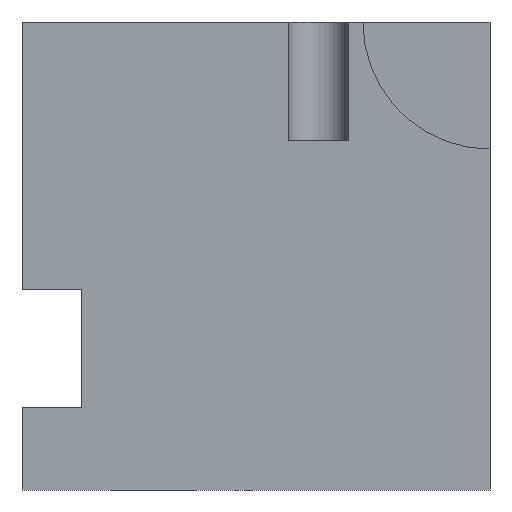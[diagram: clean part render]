
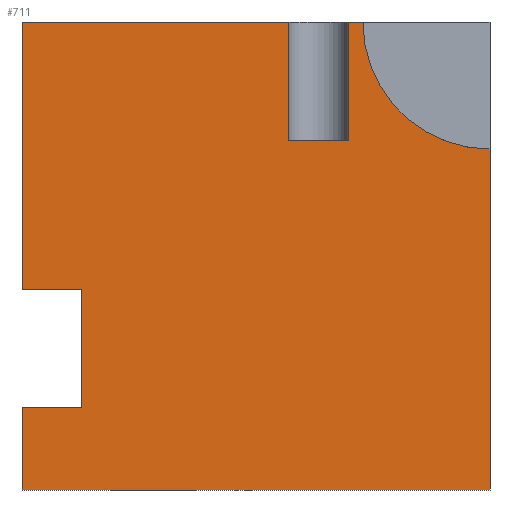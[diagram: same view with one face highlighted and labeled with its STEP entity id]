
A CAD part, front view. The second image highlights one B-rep face of the part: STEP entity #711.
In plain terms, the highlighted planar face has unit normal (0, -1, 0).
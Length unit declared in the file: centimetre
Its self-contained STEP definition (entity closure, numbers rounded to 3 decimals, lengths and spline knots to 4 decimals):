
#2 = VECTOR ( 'NONE', #988, 100. ) ;
#8 = EDGE_CURVE ( 'NONE', #552, #741, #958, .T. ) ;
#28 = LINE ( 'NONE', #287, #218 ) ;
#57 = VECTOR ( 'NONE', #776, 100. ) ;
#59 = AXIS2_PLACEMENT_3D ( 'NONE', #235, #329, #682 ) ;
#63 = CARTESIAN_POINT ( 'NONE',  ( 697.6109, 0., 746.27 ) ) ;
#89 = CARTESIAN_POINT ( 'NONE',  ( 568.8316, 0., 1000. ) ) ;
#118 = EDGE_CURVE ( 'NONE', #132, #1021, #771, .T. ) ;
#131 = CARTESIAN_POINT ( 'NONE',  ( 568.8316, 0., 746.27 ) ) ;
#132 = VERTEX_POINT ( 'NONE', #524 ) ;
#138 = DIRECTION ( 'NONE',  ( 0., 1., 0. ) ) ;
#144 = DIRECTION ( 'NONE',  ( 0., 0., 1. ) ) ;
#150 = CARTESIAN_POINT ( 'NONE',  ( 1000., 0., 0. ) ) ;
#160 = ORIENTED_EDGE ( 'NONE', *, *, #727, .F. ) ;
#163 = ORIENTED_EDGE ( 'NONE', *, *, #737, .T. ) ;
#173 = CARTESIAN_POINT ( 'NONE',  ( 0., 0., 1000. ) ) ;
#197 = VECTOR ( 'NONE', #952, 100. ) ;
#199 = VERTEX_POINT ( 'NONE', #131 ) ;
#203 = CIRCLE ( 'NONE', #59, 271.5535 ) ;
#210 = CARTESIAN_POINT ( 'NONE',  ( 0., 0., 176.4727 ) ) ;
#218 = VECTOR ( 'NONE', #481, 100. ) ;
#224 = PLANE ( 'NONE',  #1070 ) ;
#231 = ORIENTED_EDGE ( 'NONE', *, *, #889, .T. ) ;
#235 = CARTESIAN_POINT ( 'NONE',  ( 1000., 0., 1000. ) ) ;
#259 = CARTESIAN_POINT ( 'NONE',  ( 0., 0., 1000. ) ) ;
#285 = VECTOR ( 'NONE', #553, 100. ) ;
#287 = CARTESIAN_POINT ( 'NONE',  ( 568.8316, 0., 746.27 ) ) ;
#293 = ORIENTED_EDGE ( 'NONE', *, *, #444, .T. ) ;
#295 = CARTESIAN_POINT ( 'NONE',  ( 128.1789, 0., 176.4727 ) ) ;
#299 = CARTESIAN_POINT ( 'NONE',  ( 0., 0., 428.448 ) ) ;
#329 = DIRECTION ( 'NONE',  ( 0., -1., 0. ) ) ;
#353 = VERTEX_POINT ( 'NONE', #1107 ) ;
#355 = EDGE_CURVE ( 'NONE', #931, #715, #511, .T. ) ;
#361 = CARTESIAN_POINT ( 'NONE',  ( 0., 0., 428.448 ) ) ;
#372 = EDGE_CURVE ( 'NONE', #758, #199, #668, .T. ) ;
#379 = CARTESIAN_POINT ( 'NONE',  ( 0., 0., 0. ) ) ;
#397 = VECTOR ( 'NONE', #934, 100. ) ;
#413 = VERTEX_POINT ( 'NONE', #89 ) ;
#444 = EDGE_CURVE ( 'NONE', #353, #703, #968, .T. ) ;
#466 = ORIENTED_EDGE ( 'NONE', *, *, #118, .F. ) ;
#481 = DIRECTION ( 'NONE',  ( 0., 0., 1. ) ) ;
#488 = VECTOR ( 'NONE', #1111, 100. ) ;
#493 = VECTOR ( 'NONE', #1106, 100. ) ;
#494 = CARTESIAN_POINT ( 'NONE',  ( 0., 0., 0. ) ) ;
#501 = CARTESIAN_POINT ( 'NONE',  ( 128.1789, 0., 176.4727 ) ) ;
#509 = LINE ( 'NONE', #1009, #397 ) ;
#511 = LINE ( 'NONE', #749, #488 ) ;
#524 = CARTESIAN_POINT ( 'NONE',  ( 697.6109, 0., 1000. ) ) ;
#538 = CARTESIAN_POINT ( 'NONE',  ( 0., 0., 176.4727 ) ) ;
#552 = VERTEX_POINT ( 'NONE', #538 ) ;
#553 = DIRECTION ( 'NONE',  ( -1., 0., 0. ) ) ;
#566 = ORIENTED_EDGE ( 'NONE', *, *, #372, .T. ) ;
#580 = LINE ( 'NONE', #941, #975 ) ;
#636 = ORIENTED_EDGE ( 'NONE', *, *, #1108, .T. ) ;
#668 = LINE ( 'NONE', #763, #881 ) ;
#678 = VERTEX_POINT ( 'NONE', #295 ) ;
#682 = DIRECTION ( 'NONE',  ( 0., 0., -1. ) ) ;
#685 = CARTESIAN_POINT ( 'NONE',  ( 0., 0., 1000. ) ) ;
#688 = ORIENTED_EDGE ( 'NONE', *, *, #811, .F. ) ;
#689 = CARTESIAN_POINT ( 'NONE',  ( 128.1789, 0., 428.448 ) ) ;
#703 = VERTEX_POINT ( 'NONE', #299 ) ;
#711 = ADVANCED_FACE ( 'NONE', ( #998 ), #224, .F. ) ;
#715 = VERTEX_POINT ( 'NONE', #150 ) ;
#716 = LINE ( 'NONE', #379, #2 ) ;
#727 = EDGE_CURVE ( 'NONE', #1021, #931, #203, .T. ) ;
#732 = EDGE_CURVE ( 'NONE', #758, #132, #580, .T. ) ;
#737 = EDGE_CURVE ( 'NONE', #823, #678, #774, .T. ) ;
#741 = VERTEX_POINT ( 'NONE', #494 ) ;
#749 = CARTESIAN_POINT ( 'NONE',  ( 1000., 0., 1000. ) ) ;
#758 = VERTEX_POINT ( 'NONE', #63 ) ;
#763 = CARTESIAN_POINT ( 'NONE',  ( 0., 0., 746.27 ) ) ;
#771 = LINE ( 'NONE', #173, #853 ) ;
#774 = LINE ( 'NONE', #501, #493 ) ;
#776 = DIRECTION ( 'NONE',  ( 0., 0., -1. ) ) ;
#782 = CARTESIAN_POINT ( 'NONE',  ( 1000., 0., 728.4465 ) ) ;
#786 = DIRECTION ( 'NONE',  ( 1., 0., 0. ) ) ;
#797 = VECTOR ( 'NONE', #954, 100. ) ;
#802 = EDGE_LOOP ( 'NONE', ( #908, #160, #466, #856, #566, #902, #688, #293, #231, #163, #636, #930, #894 ) ) ;
#811 = EDGE_CURVE ( 'NONE', #353, #413, #509, .T. ) ;
#823 = VERTEX_POINT ( 'NONE', #689 ) ;
#844 = DIRECTION ( 'NONE',  ( -1., 0., 0. ) ) ;
#848 = DIRECTION ( 'NONE',  ( 0., 0., 1. ) ) ;
#853 = VECTOR ( 'NONE', #786, 100. ) ;
#856 = ORIENTED_EDGE ( 'NONE', *, *, #732, .F. ) ;
#881 = VECTOR ( 'NONE', #844, 100. ) ;
#889 = EDGE_CURVE ( 'NONE', #703, #823, #1052, .T. ) ;
#894 = ORIENTED_EDGE ( 'NONE', *, *, #1043, .T. ) ;
#902 = ORIENTED_EDGE ( 'NONE', *, *, #1091, .T. ) ;
#908 = ORIENTED_EDGE ( 'NONE', *, *, #355, .F. ) ;
#930 = ORIENTED_EDGE ( 'NONE', *, *, #8, .T. ) ;
#931 = VERTEX_POINT ( 'NONE', #782 ) ;
#934 = DIRECTION ( 'NONE',  ( 1., 0., 0. ) ) ;
#941 = CARTESIAN_POINT ( 'NONE',  ( 697.6109, 0., 746.27 ) ) ;
#952 = DIRECTION ( 'NONE',  ( 0., 0., -1. ) ) ;
#954 = DIRECTION ( 'NONE',  ( 1., 0., 0. ) ) ;
#958 = LINE ( 'NONE', #685, #57 ) ;
#968 = LINE ( 'NONE', #259, #197 ) ;
#972 = CARTESIAN_POINT ( 'NONE',  ( 728.4465, 0., 1000. ) ) ;
#975 = VECTOR ( 'NONE', #848, 100. ) ;
#983 = LINE ( 'NONE', #210, #285 ) ;
#988 = DIRECTION ( 'NONE',  ( 1., 0., 0. ) ) ;
#998 = FACE_OUTER_BOUND ( 'NONE', #802, .T. ) ;
#1009 = CARTESIAN_POINT ( 'NONE',  ( 0., 0., 1000. ) ) ;
#1021 = VERTEX_POINT ( 'NONE', #972 ) ;
#1023 = CARTESIAN_POINT ( 'NONE',  ( 0., 0., 1000. ) ) ;
#1043 = EDGE_CURVE ( 'NONE', #741, #715, #716, .T. ) ;
#1052 = LINE ( 'NONE', #361, #797 ) ;
#1070 = AXIS2_PLACEMENT_3D ( 'NONE', #1023, #138, #144 ) ;
#1091 = EDGE_CURVE ( 'NONE', #199, #413, #28, .T. ) ;
#1106 = DIRECTION ( 'NONE',  ( 0., 0., -1. ) ) ;
#1107 = CARTESIAN_POINT ( 'NONE',  ( 0., 0., 1000. ) ) ;
#1108 = EDGE_CURVE ( 'NONE', #678, #552, #983, .T. ) ;
#1111 = DIRECTION ( 'NONE',  ( 0., 0., -1. ) ) ;
